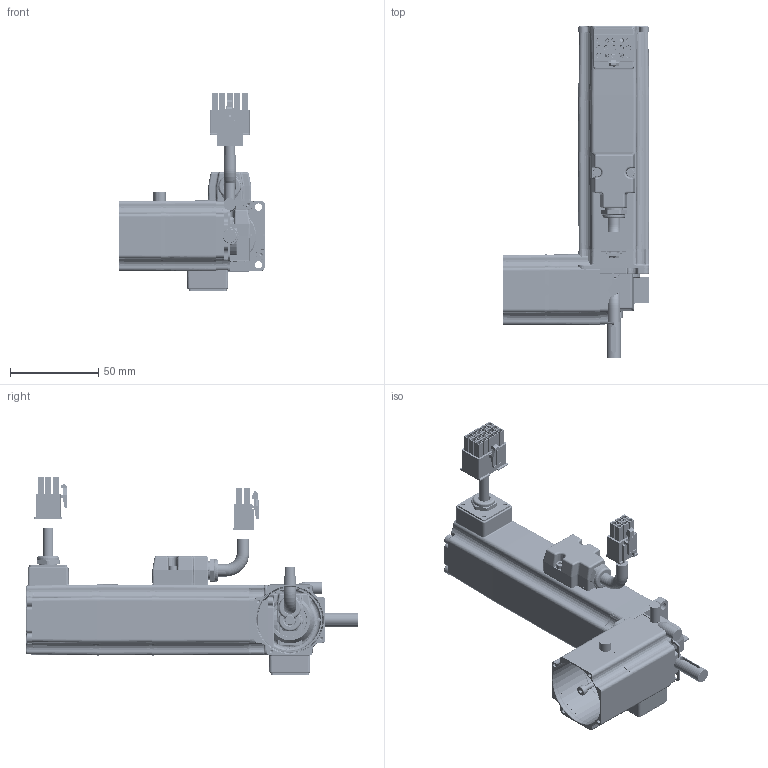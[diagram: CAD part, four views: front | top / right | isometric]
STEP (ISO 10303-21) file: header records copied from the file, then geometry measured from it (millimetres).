
FILE_DESCRIPTION( ( 'Unknown' ), '1' );
FILE_NAME( 'K:/121010-AL Files 3D Step con chiavetta/Q0A929_0,32.stp', 'Unknown', ( 'Unknown' ), ( 'Unknown' ), 'PSStep 14.0', 'Unknown', ' ' );
FILE_SCHEMA( ( 'AUTOMOTIVE_DESIGN { 1 0 10303 214 1 1 1 1 }' ) );
Length unit declared in the file: millimetre
Products named in the file (41): Assem1; blocchetto potenza ORIZ TC40-(N13050); Vite a brugola testa cil 8,8 -  M 2,5 x 4; N45901; N35907; Vite a brugola testa cil 8,8 -  M 2,5 x 12; 1; N15909_D6,5; N35218_H5; CAPICORDA 3_senza protezione; CAVO POT-N13050-curva; N33908; S00906; n35905; N35209; CUSC_10_26_8_6000_ZZ; N27908; CN amp 172171; Vite a brugola testa cil 8,8 -  M 2,5 x 16; Vite a brugola testa cil 8,8 -  M  3 x 40; Vite a brugola testa cil 8,8 -  M  3 x 40-oa0; Vite a brugola testa cil 8,8 -  M  3 x 40-oa1; Vite a brugola testa cil 8,8 -  M  3 x 40-oa2; CAVO D6 L30-sgn; CN amp 172168 6p MAS; LI-PIA   3x3 x 15; n09913; CUSC_7_19_6_607_ZZ; N01955
Bounding box: 82.85 x 187.64 x 111.7 mm (x, y, z)
Volume: 199515.7 mm3; surface area: 179054 mm2
Topology: 87 solids, 91 shells, 5118 faces, 13295 edges, 8566 vertices
Faces by surface type: plane 3158, cylinder 985, bspline 369, cone 265, torus 225, extrusion 66, sphere 50
Full cylindrical faces by diameter (mm): 0.314 x2, 1.82 x30, 2.013 x31, 2.05 x4, 2.459 x18, 2.5 x11, 2.6 x42, 2.7 x14, 3 x24, 3.2 x3, 3.5 x4, 4.7 x11, 5 x2, 5.5 x8, 6 x4, 6.5 x5, 6.8 x3, 6.995 x2, 7 x12, 8 x5, 10 x4, 10.3 x10, 10.647 x3, 10.707 x2, 10.84 x8, 11 x4, 12 x7, 12.7 x5, 14.5 x2, 14.7 x8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
Entity records: 92614 total; most frequent: CARTESIAN_POINT 24673, ORIENTED_EDGE 11666, DIRECTION 11192, EDGE_CURVE 5833, VECTOR 3996, LINE 3963, VERTEX_POINT 3937, AXIS2_PLACEMENT_3D 3598
